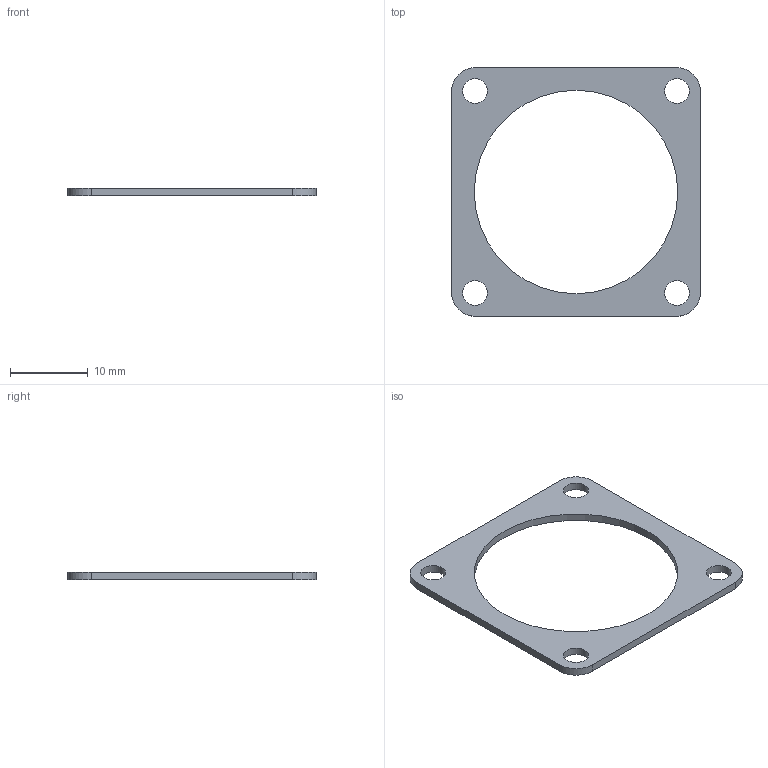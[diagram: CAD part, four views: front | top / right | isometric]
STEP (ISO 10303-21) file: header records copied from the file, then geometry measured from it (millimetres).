
FILE_DESCRIPTION (( 'STEP AP203' ), '1' );
FILE_NAME ('EB-21FG(R1).STEP', '2021-08-11T00:06:04', ( '' ), ( '' ), 'SwSTEP 2.0', 'SolidWorks 2018', '' );
FILE_SCHEMA (( 'CONFIG_CONTROL_DESIGN' ));
Length unit declared in the file: millimetre
Products named in the file (1): EB-21FG(R1)
Bounding box: 32 x 32 x 1 mm (x, y, z)
Volume: 445 mm3; surface area: 1135.3 mm2
Topology: 1 solids, 1 shells, 15 faces, 39 edges, 26 vertices
Faces by surface type: cylinder 9, plane 6
Full cylindrical faces by diameter (mm): 3.2 x4, 26.2 x1
Entity records: 543 total; most frequent: DIRECTION 84, CARTESIAN_POINT 76, ORIENTED_EDGE 68, AXIS2_PLACEMENT_3D 34, EDGE_CURVE 34, EDGE_LOOP 30, VERTEX_POINT 26, FACE_OUTER_BOUND 20
